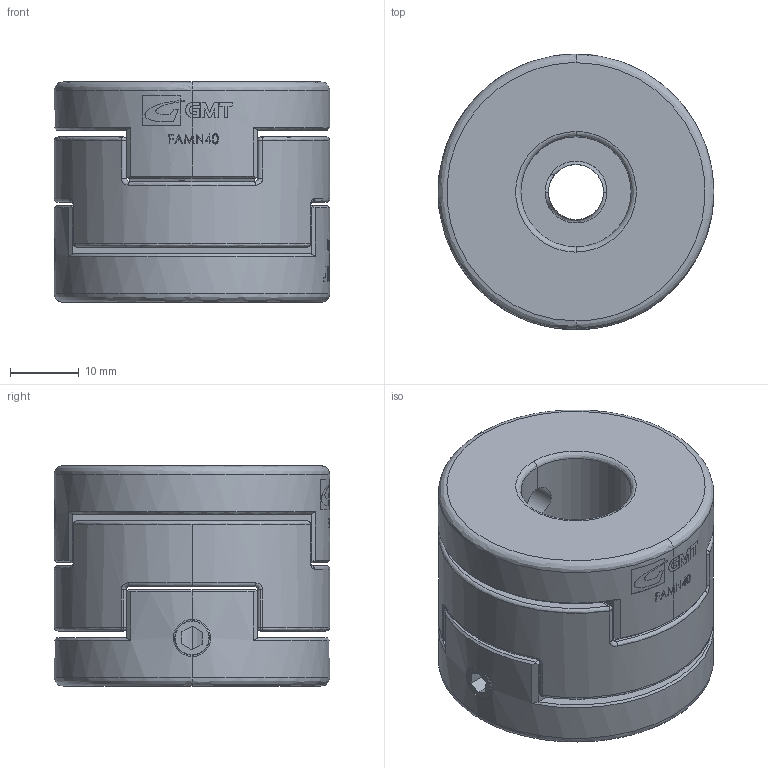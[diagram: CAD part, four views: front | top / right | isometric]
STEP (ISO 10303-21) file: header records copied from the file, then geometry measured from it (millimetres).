
FILE_DESCRIPTION (( 'STEP AP203' ), '1' );
FILE_NAME ('FAMN40.STEP', '2008-04-05T07:17:29', ( '陳志豪' ), ( '高明鐵企業股份有限公司' ), 'SwSTEP 2.0', 'SolidWorks 2007', '' );
FILE_SCHEMA (( 'CONFIG_CONTROL_DESIGN' ));
Length unit declared in the file: millimetre
Products named in the file (1): FAMN40
Bounding box: 40 x 40 x 32 mm (x, y, z)
Surface area: 12416.3 mm2 (no closed solid volume)
Topology: 0 solids, 4 shells, 264 faces, 803 edges, 546 vertices
Faces by surface type: plane 103, bspline 78, cylinder 66, cone 17
Entity records: 12465 total; most frequent: CARTESIAN_POINT 6226, ORIENTED_EDGE 1528, DIRECTION 877, EDGE_CURVE 791, VERTEX_POINT 546, B_SPLINE_CURVE_WITH_KNOTS 396, AXIS2_PLACEMENT_3D 316, EDGE_LOOP 296
